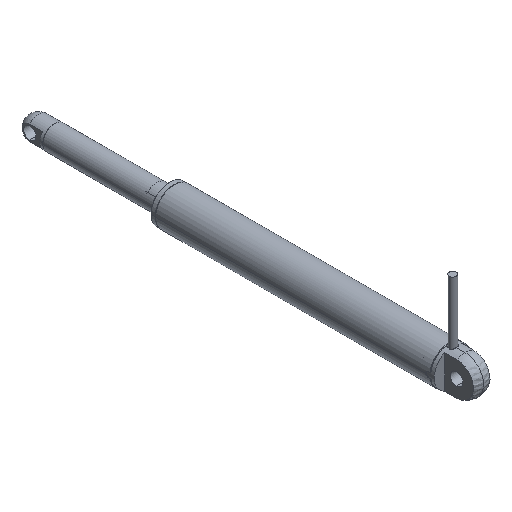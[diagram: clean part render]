
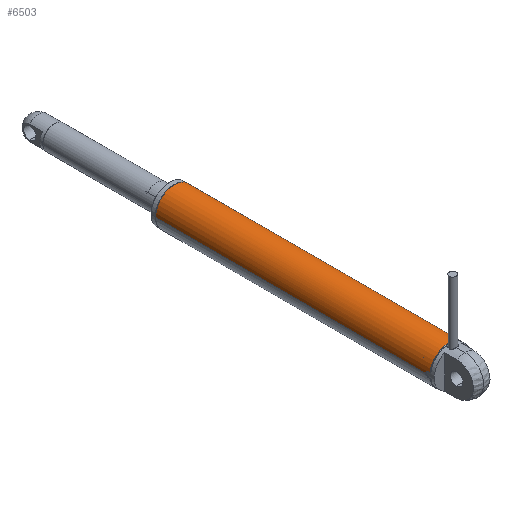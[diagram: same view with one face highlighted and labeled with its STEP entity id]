
A CAD part, isometric view. The second image highlights one B-rep face of the part: STEP entity #6503.
In plain terms, the highlighted cylindrical face has radius 4 mm (diameter 8 mm), a partial arc.
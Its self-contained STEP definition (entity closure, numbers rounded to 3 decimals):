
#5923=CARTESIAN_POINT('',(-0.5,-28.65,3.969));
#5924=CARTESIAN_POINT('',(-0.5,-28.598,3.969));
#5925=CARTESIAN_POINT('',(-0.484,-28.493,
3.971));
#5926=CARTESIAN_POINT('',(-0.411,-28.351,
3.979));
#5927=CARTESIAN_POINT('',(-0.299,-28.239,
3.989));
#5928=CARTESIAN_POINT('',(-0.157,-28.167,
3.998));
#5929=CARTESIAN_POINT('',(-0.052,-28.15,4.));
#5930=CARTESIAN_POINT('',(0.,-28.15,4.));
#5962=DIRECTION('',(0.,1.,0.));
#5963=VECTOR('',#5962,0.35);
#5964=CARTESIAN_POINT('',(-0.5,-29.,-3.969));
#5965=LINE('',#5964,#5963);
#5966=DIRECTION('',(0.,-1.,0.));
#5967=VECTOR('',#5966,57.15);
#5968=CARTESIAN_POINT('',(0.,29.,4.));
#5969=LINE('',#5968,#5967);
#5970=DIRECTION('',(0.,-1.,0.));
#5971=VECTOR('',#5970,0.35);
#5972=CARTESIAN_POINT('',(-0.5,-28.65,3.969));
#5973=LINE('',#5972,#5971);
#5981=CARTESIAN_POINT('',(0.,-29.,0.));
#5982=DIRECTION('',(0.,1.,0.));
#5983=DIRECTION('',(-0.125,0.,-0.992));
#5984=AXIS2_PLACEMENT_3D('',#5981,#5982,#5983);
#5993=CARTESIAN_POINT('',(0.,-28.15,-4.));
#5994=CARTESIAN_POINT('',(-0.052,-28.15,-4.));
#5995=CARTESIAN_POINT('',(-0.157,-28.166,
-3.998));
#5996=CARTESIAN_POINT('',(-0.299,-28.239,
-3.989));
#5997=CARTESIAN_POINT('',(-0.411,-28.351,
-3.979));
#5998=CARTESIAN_POINT('',(-0.483,-28.493,
-3.971));
#5999=CARTESIAN_POINT('',(-0.5,-28.598,-3.969));
#6000=CARTESIAN_POINT('',(-0.5,-28.65,-3.969));
#6079=DIRECTION('',(0.,-1.,0.));
#6080=VECTOR('',#6079,57.15);
#6081=CARTESIAN_POINT('',(0.,29.,-4.));
#6082=LINE('',#6081,#6080);
#6124=CARTESIAN_POINT('',(0.,29.,0.));
#6125=DIRECTION('',(0.,-1.,0.));
#6126=DIRECTION('',(0.,0.,1.));
#6127=AXIS2_PLACEMENT_3D('',#6124,#6125,#6126);
#6298=CARTESIAN_POINT('',(-0.5,-28.65,3.969));
#6299=VERTEX_POINT('',#6298);
#6300=VERTEX_POINT('',#5930);
#6316=CARTESIAN_POINT('',(-0.5,-29.,-3.969));
#6317=CARTESIAN_POINT('',(-0.5,-28.65,-3.969));
#6318=VERTEX_POINT('',#6316);
#6319=VERTEX_POINT('',#6317);
#6320=CARTESIAN_POINT('',(-0.5,-29.,3.969));
#6321=VERTEX_POINT('',#6320);
#6322=VERTEX_POINT('',#5993);
#6323=CARTESIAN_POINT('',(0.,29.,-4.));
#6324=VERTEX_POINT('',#6323);
#6325=CARTESIAN_POINT('',(0.,29.,4.));
#6326=VERTEX_POINT('',#6325);
#6482=CARTESIAN_POINT('',(0.,29.1,0.));
#6483=DIRECTION('',(0.,-1.,0.));
#6484=DIRECTION('',(0.,0.,-1.));
#6485=AXIS2_PLACEMENT_3D('',#6482,#6483,#6484);
#6486=CYLINDRICAL_SURFACE('',#6485,4.);
#6488=ORIENTED_EDGE('',*,*,#6487,.F.);
#6489=ORIENTED_EDGE('',*,*,#6464,.T.);
#6491=ORIENTED_EDGE('',*,*,#6490,.F.);
#6493=ORIENTED_EDGE('',*,*,#6492,.F.);
#6495=ORIENTED_EDGE('',*,*,#6494,.F.);
#6497=ORIENTED_EDGE('',*,*,#6496,.T.);
#6498=ORIENTED_EDGE('',*,*,#6393,.F.);
#6500=ORIENTED_EDGE('',*,*,#6499,.T.);
#6501=EDGE_LOOP('',(#6488,#6489,#6491,#6493,#6495,#6497,#6498,#6500));
#6502=FACE_OUTER_BOUND('',#6501,.F.);
#6503=ADVANCED_FACE('',(#6502),#6486,.T.);
#5931=B_SPLINE_CURVE_WITH_KNOTS('',3,(#5923,#5924,#5925,#5926,#5927,#5928,#5929,
#5930),.UNSPECIFIED.,.F.,.F.,(4,1,1,1,1,4),(0.,0.2,0.4,0.6,0.8,1.),
.UNSPECIFIED.);
#5985=CIRCLE('',#5984,4.);
#6001=B_SPLINE_CURVE_WITH_KNOTS('',3,(#5993,#5994,#5995,#5996,#5997,#5998,#5999,
#6000),.UNSPECIFIED.,.F.,.F.,(4,1,1,1,1,4),(0.,0.2,0.4,0.6,0.8,1.),
.UNSPECIFIED.);
#6128=CIRCLE('',#6127,4.);
#6393=EDGE_CURVE('',#6299,#6300,#5931,.T.);
#6464=EDGE_CURVE('',#6318,#6319,#5965,.T.);
#6487=EDGE_CURVE('',#6318,#6321,#5985,.T.);
#6490=EDGE_CURVE('',#6322,#6319,#6001,.T.);
#6492=EDGE_CURVE('',#6324,#6322,#6082,.T.);
#6494=EDGE_CURVE('',#6326,#6324,#6128,.T.);
#6496=EDGE_CURVE('',#6326,#6300,#5969,.T.);
#6499=EDGE_CURVE('',#6299,#6321,#5973,.T.);
